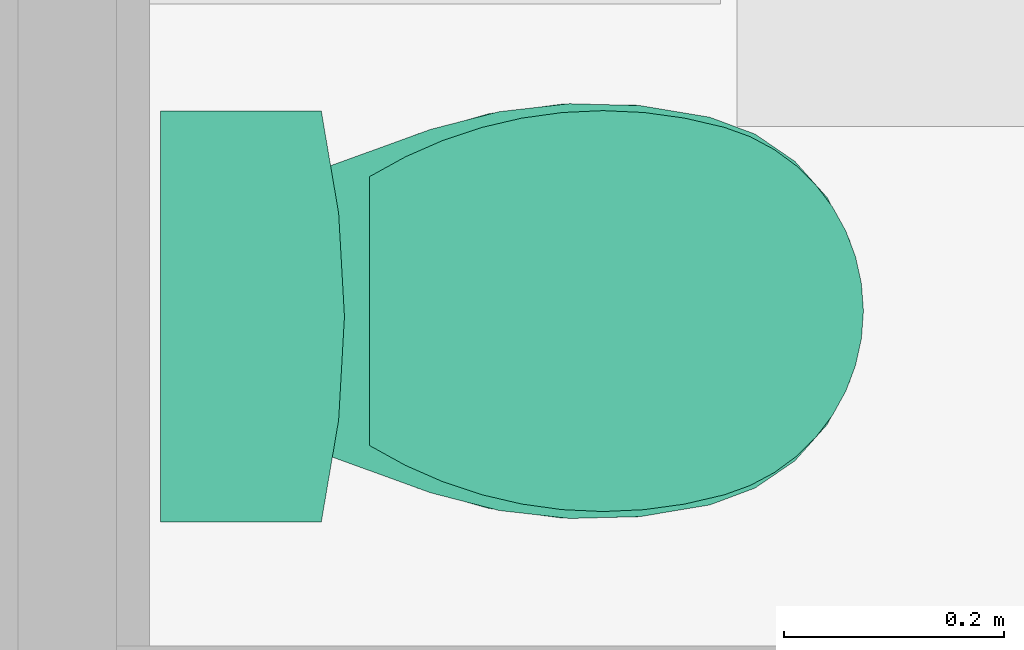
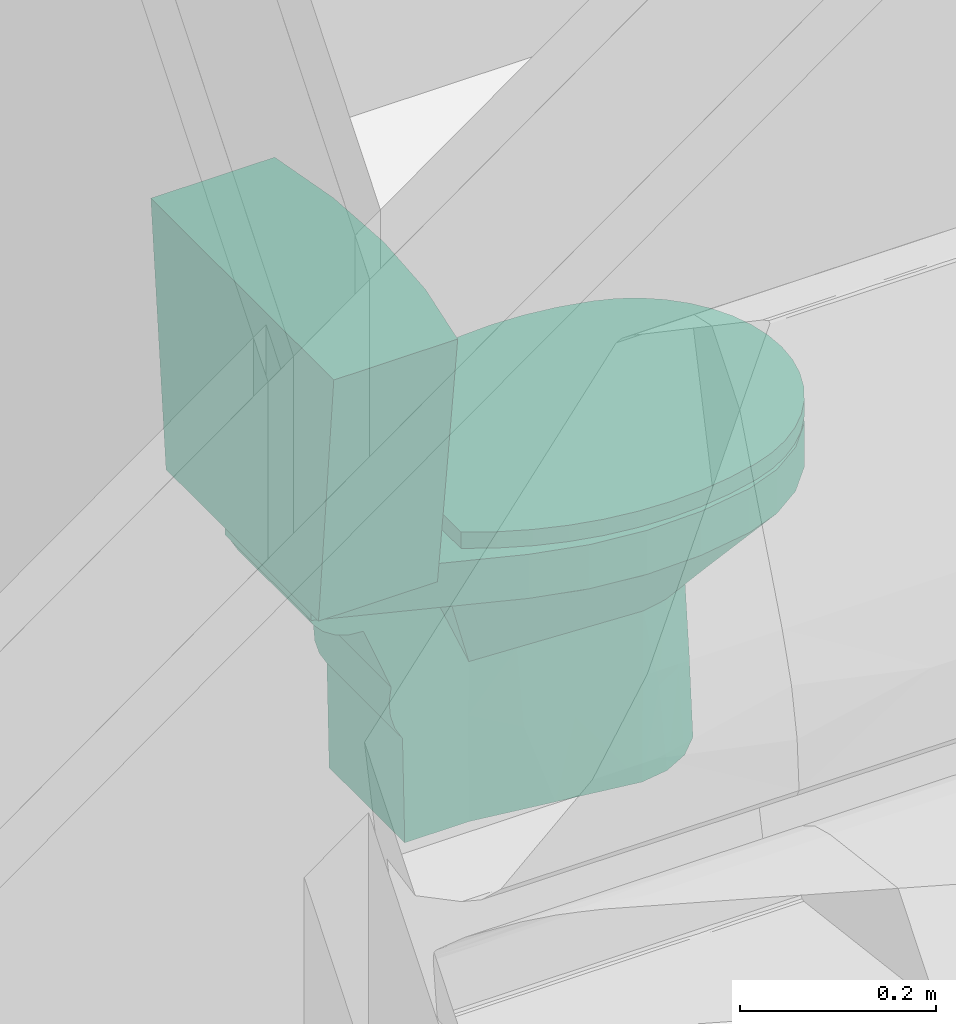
# One storey, part 67 of 155: 3 flow terminals.
"""IFC2X3 building model written with IfcOpenShell, lengths in metres."""

from ifc_helpers import new_model, entity, si_unit, converted_unit, derived_unit, direction, frame, frame_2d, origin, place, context, subcontext, project, spatial, polyline, circle_curve, parameter, trimmed, segment, composite_curve, outline, extrude, faceted_brep, source, transform, mapped, material, element, save


model = new_model("IFC2X3")

# Units and contexts
model_context = context("Model", 3, precision=1e-05, world=origin(), true_north=direction((6.12303176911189e-17, 1.0)))
body_context = subcontext(model_context, "Body", "Model", "MODEL_VIEW")
ifc_project = project(units=[si_unit("LENGTHUNIT", "METRE"), si_unit("AREAUNIT", "SQUARE_METRE"), si_unit("VOLUMEUNIT", "CUBIC_METRE"), converted_unit("PLANEANGLEUNIT", "DEGREE", entity("IfcRatioMeasure", 0.0174532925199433), si_unit("PLANEANGLEUNIT", "RADIAN"), dimensions=[0, 0, 0, 0, 0, 0, 0]), si_unit("MASSUNIT", "GRAM", prefix="KILO"), derived_unit("MASSDENSITYUNIT", [(si_unit("MASSUNIT", "GRAM", prefix="KILO"), 1), (si_unit("LENGTHUNIT", "METRE"), -3)]), si_unit("TIMEUNIT", "SECOND"), si_unit("FREQUENCYUNIT", "HERTZ"), si_unit("THERMODYNAMICTEMPERATUREUNIT", "DEGREE_CELSIUS"), derived_unit("THERMALTRANSMITTANCEUNIT", [(si_unit("MASSUNIT", "GRAM", prefix="KILO"), 1), (si_unit("THERMODYNAMICTEMPERATUREUNIT", "KELVIN"), -1), (si_unit("TIMEUNIT", "SECOND"), -3)]), derived_unit("VOLUMETRICFLOWRATEUNIT", [(si_unit("LENGTHUNIT", "METRE"), 3), (si_unit("TIMEUNIT", "SECOND"), -1)]), si_unit("ELECTRICCURRENTUNIT", "AMPERE"), si_unit("ELECTRICVOLTAGEUNIT", "VOLT"), si_unit("POWERUNIT", "WATT"), si_unit("FORCEUNIT", "NEWTON", prefix="KILO"), si_unit("ILLUMINANCEUNIT", "LUX"), si_unit("LUMINOUSFLUXUNIT", "LUMEN"), si_unit("LUMINOUSINTENSITYUNIT", "CANDELA"), derived_unit("USERDEFINED", [(si_unit("MASSUNIT", "GRAM", prefix="KILO"), -1), (si_unit("LENGTHUNIT", "METRE"), -2), (si_unit("TIMEUNIT", "SECOND"), 3), (si_unit("LUMINOUSFLUXUNIT", "LUMEN"), 1)]), derived_unit("LINEARVELOCITYUNIT", [(si_unit("LENGTHUNIT", "METRE"), 1), (si_unit("TIMEUNIT", "SECOND"), -1)]), si_unit("PRESSUREUNIT", "PASCAL"), derived_unit("USERDEFINED", [(si_unit("LENGTHUNIT", "METRE"), -2), (si_unit("MASSUNIT", "GRAM", prefix="KILO"), 1), (si_unit("TIMEUNIT", "SECOND"), -2)])], contexts=[model_context])

# Site, building, storey, space
site_placement = place(None, frame((26.9889013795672, -17.5624287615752, 0.0)))
site = spatial("IfcSite", under=ifc_project, at=site_placement, Name="Default", CompositionType="ELEMENT")
building_placement = place(site_placement, origin())
building = spatial("IfcBuilding", under=site, at=building_placement, Name="C. C. L. Monsenhor Antônio Sampaio", CompositionType="ELEMENT")
storey_placement = place(building_placement, frame((0.0, 0.0, 1.19999999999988)))
storey = spatial("IfcBuildingStorey", under=building, at=storey_placement, Name="Nível 1.2", CompositionType="ELEMENT", Elevation=1.19999999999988)
space_placement = place(storey_placement, origin())
space = spatial("IfcSpace", under=storey, at=space_placement, Name="98", CompositionType="ELEMENT", InteriorOrExteriorSpace="INTERNAL")

# Flow terminals
ifc_material_1 = material(Name="Deca CR37 Creme Cerâmica")
shared_shape_1 = source(origin(), body_context, "Body", "Brep", [
    faceted_brep([(0.268160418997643, 0.380000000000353, 0.118207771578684), (0.268160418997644, 0.380000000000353, 0.1938965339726), (0.268160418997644, 0.313331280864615, 0.193201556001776), (0.268160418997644, 0.24666007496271, 0.192953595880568), (0.268160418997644, 0.180000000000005, 0.193896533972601), (0.268160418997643, 0.0549999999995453, 0.140707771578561), (0.268160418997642, 0.0549999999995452, 0.00159527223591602), (0.268160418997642, 0.0698988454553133, 0.0100176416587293), (0.268160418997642, 0.0823512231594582, 0.0217586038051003), (0.268160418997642, 0.0916344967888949, 0.0361368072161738), (0.268160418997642, 0.0972099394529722, 0.0523178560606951), (0.268160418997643, 0.0987539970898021, 0.0693627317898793), (0.268160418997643, 0.179999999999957, 0.102188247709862), (0.268160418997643, 0.19786747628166, 0.0997541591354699), (0.268160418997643, 0.215838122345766, 0.101246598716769), (0.268160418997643, 0.233059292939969, 0.10659475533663), (0.268160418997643, 0.248713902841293, 0.11554487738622), (0.113406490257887, 0.0916344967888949, 0.0361368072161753), (0.113406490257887, 0.0823512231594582, 0.0217586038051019), (0.113406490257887, 0.0698988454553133, 0.0100176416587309), (0.113406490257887, 0.0549999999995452, 0.00159527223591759), (0.113406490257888, 0.0549999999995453, 0.140707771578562), (0.113406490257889, 0.180000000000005, 0.193896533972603), (0.113406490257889, 0.246666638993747, 0.194094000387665), (0.113406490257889, 0.313333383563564, 0.194043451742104), (0.113406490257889, 0.380000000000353, 0.193896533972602), (0.113406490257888, 0.380000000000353, 0.118207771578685), (0.113406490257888, 0.248713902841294, 0.115544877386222), (0.113406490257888, 0.233059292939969, 0.106594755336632), (0.113406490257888, 0.215838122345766, 0.101246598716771), (0.113406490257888, 0.19786747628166, 0.0997541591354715), (0.113406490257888, 0.179999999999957, 0.102188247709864), (0.113406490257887, 0.0987539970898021, 0.0693627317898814), (0.113406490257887, 0.0972099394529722, 0.0523178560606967), (0.252339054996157, 0.380000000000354, 0.467840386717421), (0.275610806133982, 0.380000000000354, 0.444568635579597), (0.290552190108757, 0.380000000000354, 0.415244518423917), (0.295700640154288, 0.380000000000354, 0.382738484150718), (0.281970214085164, 0.380000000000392, 0.288317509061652), (0.105710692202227, 0.380000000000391, 0.24571892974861), (0.0979976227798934, 0.380000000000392, 0.297541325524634), (0.085317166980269, 0.380000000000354, 0.382738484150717), (0.0904656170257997, 0.380000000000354, 0.415244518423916), (0.105407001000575, 0.380000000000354, 0.444568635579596), (0.128678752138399, 0.380000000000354, 0.467840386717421), (0.158002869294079, 0.380000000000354, 0.482781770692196), (0.190508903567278, 0.380000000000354, 0.487930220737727), (0.206761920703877, 0.380000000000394, 0.485355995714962), (0.223014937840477, 0.380000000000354, 0.482781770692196), (0.27929222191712, 0.179999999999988, 0.393896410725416), (0.273106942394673, 0.179999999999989, 0.423407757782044), (0.257407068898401, 0.179999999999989, 0.449150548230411), (0.245704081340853, 0.179999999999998, 0.458654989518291), (0.234001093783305, 0.179999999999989, 0.468159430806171), (0.205585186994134, 0.179999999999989, 0.47824474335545), (0.175432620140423, 0.179999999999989, 0.47824474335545), (0.161224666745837, 0.179999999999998, 0.473202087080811), (0.147016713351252, 0.179999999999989, 0.468159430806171), (0.123610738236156, 0.179999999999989, 0.449150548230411), (0.107910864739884, 0.179999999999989, 0.423407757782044), (0.101725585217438, 0.179999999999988, 0.393896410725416), (0.104935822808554, 0.179999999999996, 0.339012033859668), (0.107574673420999, 0.179999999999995, 0.293896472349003), (0.271287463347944, 0.179999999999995, 0.249045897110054), (0.274335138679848, 0.179999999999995, 0.304195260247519), (0.098784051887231, 0.290142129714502, 0.330769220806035), (0.105110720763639, 0.283569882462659, 0.273844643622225), (0.0934222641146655, 0.281208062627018, 0.388250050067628), (0.0953872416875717, 0.257257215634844, 0.389586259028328), (0.274339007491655, 0.279255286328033, 0.255685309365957), (0.280137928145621, 0.282802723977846, 0.312510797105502), (0.287496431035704, 0.280000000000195, 0.388317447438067), (0.285630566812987, 0.25725723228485, 0.389586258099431), (0.0966193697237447, 0.275039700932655, 0.409632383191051), (0.121774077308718, 0.29110573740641, 0.45601571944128), (0.109893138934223, 0.271267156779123, 0.439731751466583), (0.233838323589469, 0.291843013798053, 0.474126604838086), (0.259243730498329, 0.291105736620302, 0.456015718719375), (0.271124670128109, 0.271267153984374, 0.4397317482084), (0.165732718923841, 0.276826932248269, 0.480372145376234), (0.284398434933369, 0.275039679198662, 0.40963238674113), (0.137585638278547, 0.278929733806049, 0.46796088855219), (0.212957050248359, 0.281586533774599, 0.481168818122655), (0.186508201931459, 0.26973608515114, 0.483217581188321)], [[[0, 1, 2, 3, 4, 5, 6, 7, 8, 9, 10, 11, 12, 13, 14, 15, 16]], [[17, 18, 19, 20, 21, 22, 23, 24, 25, 26, 27, 28, 29, 30, 31, 32, 33]], [[20, 6, 5, 21]], [[34, 35, 36, 37, 38, 1, 0, 26, 25, 39, 40, 41, 42, 43, 44, 45, 46, 47, 48]], [[26, 0, 16, 27]], [[15, 28, 27, 16]], [[29, 28, 15, 14]], [[13, 12, 31, 30]], [[14, 13, 30, 29]], [[31, 12, 11, 32]], [[33, 32, 11, 10]], [[17, 33, 10, 9]], [[9, 8, 18, 17]], [[19, 18, 8, 7]], [[20, 19, 7, 6]], [[21, 5, 4, 22]], [[49, 50, 51, 52, 53, 54, 55, 56, 57, 58, 59, 60, 61, 62, 22, 4, 63, 64]], [[62, 61, 65]], [[62, 65, 66]], [[22, 66, 23]], [[39, 66, 40]], [[65, 67, 41]], [[61, 60, 68, 67]], [[39, 25, 24]], [[66, 39, 24]], [[22, 62, 66]], [[66, 24, 23]], [[40, 66, 65]], [[40, 65, 41]], [[67, 65, 61]], [[69, 1, 38]], [[70, 38, 37]], [[3, 2, 69]], [[69, 2, 1]], [[70, 37, 71, 72, 49]], [[64, 70, 49]], [[69, 38, 70]], [[64, 69, 70]], [[69, 63, 3]], [[4, 3, 63]], [[69, 64, 63]], [[59, 73, 60]], [[73, 42, 41]], [[44, 43, 74]], [[58, 74, 75]], [[52, 76, 53]], [[43, 42, 75]], [[35, 77, 78]], [[56, 55, 79]], [[68, 60, 73, 41, 67]], [[80, 49, 72, 71, 37]], [[43, 75, 74]], [[81, 74, 58]], [[44, 81, 45]], [[44, 74, 81]], [[81, 79, 45]], [[73, 59, 75]], [[56, 79, 81]], [[75, 59, 58]], [[53, 76, 82]], [[76, 34, 48]], [[78, 80, 36]], [[83, 82, 47]], [[54, 53, 82]], [[77, 35, 34]], [[54, 82, 83]], [[80, 50, 49]], [[47, 82, 48]], [[76, 48, 82]], [[79, 83, 46]], [[79, 55, 83]], [[34, 76, 77]], [[77, 51, 78]], [[47, 46, 83]], [[45, 79, 46]], [[56, 81, 57]], [[83, 55, 54]], [[77, 76, 52]], [[51, 77, 52]], [[57, 81, 58]], [[35, 78, 36]], [[78, 51, 50]], [[42, 73, 75]], [[50, 80, 78]], [[36, 80, 37]]]),
    faceted_brep([(0.278810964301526, 0.0549999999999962, 0.00159527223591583), (0.102206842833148, 0.0549999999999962, 0.00159527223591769), (0.0249993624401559, 0.0549999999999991, 0.214136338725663), (0.00887872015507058, 0.055, 0.276529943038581), (0.001595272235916, 0.0550000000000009, 0.340559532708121), (0.00329068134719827, 0.0550000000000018, 0.404979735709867), (0.0139319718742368, 0.0550000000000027, 0.46853758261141), (0.0293015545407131, 0.0550000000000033, 0.50973851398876), (0.0541240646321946, 0.0550000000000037, 0.546037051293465), (0.0869439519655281, 0.0550000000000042, 0.575304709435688), (0.1258367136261, 0.0550000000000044, 0.595825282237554), (0.168521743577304, 0.0550000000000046, 0.606395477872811), (0.212496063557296, 0.0550000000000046, 0.606395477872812), (0.2551810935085, 0.0550000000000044, 0.595825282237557), (0.294073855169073, 0.0550000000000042, 0.575304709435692), (0.326893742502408, 0.0550000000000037, 0.546037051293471), (0.351716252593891, 0.0550000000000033, 0.509738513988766), (0.367085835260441, 0.0550000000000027, 0.468537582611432), (0.377727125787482, 0.0550000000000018, 0.404979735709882), (0.379422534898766, 0.0550000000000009, 0.340559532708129), (0.37213908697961, 0.055, 0.276529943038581), (0.356018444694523, 0.0549999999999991, 0.21413633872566), (0.326893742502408, 0.0, 0.546037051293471), (0.294073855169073, 0.0, 0.575304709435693), (0.2551810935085, 0.0, 0.595825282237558), (0.212496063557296, 0.0, 0.606395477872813), (0.168521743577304, 0.0, 0.606395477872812), (0.1258367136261, 0.0, 0.595825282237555), (0.0869439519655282, 0.0, 0.575304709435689), (0.0541240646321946, 0.0, 0.546037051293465), (0.0293015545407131, 0.0, 0.50973851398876), (0.0139319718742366, 0.0, 0.468537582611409), (0.00329068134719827, 0.0, 0.404979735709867), (0.001595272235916, 0.0, 0.340559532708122), (0.00887872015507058, 0.0, 0.276529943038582), (0.0249993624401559, 0.0, 0.214136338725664), (0.102206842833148, 0.0, 0.00159527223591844), (0.278810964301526, 0.0, 0.00159527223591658), (0.356018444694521, 0.0, 0.214136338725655), (0.37213908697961, 0.0, 0.276529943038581), (0.379422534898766, 0.0, 0.340559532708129), (0.377727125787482, 0.0, 0.404979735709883), (0.367085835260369, 0.0, 0.468537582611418), (0.351716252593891, 0.0, 0.509738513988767)], [[[0, 1, 2, 3, 4, 5, 6, 7, 8, 9, 10, 11, 12, 13, 14, 15, 16, 17, 18, 19, 20, 21]], [[22, 23, 24, 25, 26, 27, 28, 29, 30, 31, 32, 33, 34, 35, 36, 37, 38, 39, 40, 41, 42, 43]], [[35, 2, 1, 36]], [[36, 1, 0, 37]], [[37, 0, 21, 38]], [[20, 19, 40, 39]], [[38, 21, 20, 39]], [[18, 17, 42, 41]], [[19, 18, 41, 40]], [[42, 17, 16, 43]], [[43, 16, 15, 22]], [[24, 23, 14, 13]], [[14, 23, 22, 15]], [[25, 24, 13, 12]], [[12, 11, 26, 25]], [[9, 28, 27, 10]], [[10, 27, 26, 11]], [[30, 29, 8, 7]], [[28, 9, 8, 29]], [[31, 30, 7, 6]], [[5, 4, 33, 32]], [[31, 6, 5, 32]], [[3, 2, 35, 34]], [[4, 3, 34, 33]]]),
    faceted_brep([(0.00190963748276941, 0.0549999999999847, 0.334308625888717), (0.0106813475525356, 0.0549999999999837, 0.267316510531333), (0.0291285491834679, 0.0549999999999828, 0.202319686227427), (0.0568568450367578, 0.054999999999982, 0.140707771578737), (0.32416096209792, 0.054999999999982, 0.140707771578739), (0.351889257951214, 0.0549999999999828, 0.202319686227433), (0.370336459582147, 0.0549999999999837, 0.267316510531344), (0.379108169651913, 0.0549999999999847, 0.334308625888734), (0.378016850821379, 0.0549999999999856, 0.401863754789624), (0.36708583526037, 0.0549999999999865, 0.468537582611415), (0.351716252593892, 0.0549999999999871, 0.509738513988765), (0.326893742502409, 0.0549999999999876, 0.546037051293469), (0.294073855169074, 0.054999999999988, 0.575304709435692), (0.255181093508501, 0.0549999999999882, 0.595825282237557), (0.212496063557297, 0.0549999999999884, 0.606395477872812), (0.168521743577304, 0.0549999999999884, 0.606395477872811), (0.1258367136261, 0.0549999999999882, 0.595825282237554), (0.0869439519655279, 0.054999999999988, 0.575304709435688), (0.0541240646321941, 0.0549999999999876, 0.546037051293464), (0.0293015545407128, 0.0549999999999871, 0.509738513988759), (0.0139319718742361, 0.0549999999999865, 0.468537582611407), (0.00300095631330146, 0.0549999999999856, 0.401863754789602), (0.11342376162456, 0.179999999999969, 0.193896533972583), (0.11049921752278, 0.179999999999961, 0.24389650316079), (0.107574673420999, 0.179999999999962, 0.293896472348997), (0.104650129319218, 0.179999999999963, 0.343896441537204), (0.101725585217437, 0.179999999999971, 0.393896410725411), (0.107910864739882, 0.179999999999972, 0.42340775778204), (0.123610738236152, 0.179999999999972, 0.449150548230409), (0.1353137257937, 0.179999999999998, 0.45865498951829), (0.147016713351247, 0.179999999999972, 0.468159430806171), (0.175432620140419, 0.179999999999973, 0.478244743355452), (0.20558518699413, 0.179999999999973, 0.478244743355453), (0.234001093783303, 0.179999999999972, 0.468159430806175), (0.245704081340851, 0.179999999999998, 0.458654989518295), (0.2574070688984, 0.179999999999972, 0.449150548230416), (0.273106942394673, 0.179999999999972, 0.423407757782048), (0.27929222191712, 0.179999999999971, 0.393896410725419), (0.276529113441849, 0.179999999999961, 0.34389644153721), (0.273766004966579, 0.179999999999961, 0.293896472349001), (0.271002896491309, 0.17999999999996, 0.243896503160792), (0.268239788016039, 0.179999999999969, 0.193896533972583), (0.291656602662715, 0.127656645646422, 0.17162390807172), (0.307908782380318, 0.091328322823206, 0.15616583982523), (0.0733060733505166, 0.091349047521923, 0.156174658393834), (0.0897553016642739, 0.127698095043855, 0.171641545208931), (0.319208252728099, 0.109492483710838, 0.227274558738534), (0.301825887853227, 0.14804688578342, 0.324994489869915), (0.29696767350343, 0.148046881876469, 0.266380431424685), (0.326006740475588, 0.116093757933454, 0.297350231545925), (0.334403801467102, 0.10949248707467, 0.369343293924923), (0.292104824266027, 0.145256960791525, 0.219552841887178), (0.316055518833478, 0.127656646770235, 0.425152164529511), (0.335161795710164, 0.100453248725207, 0.441396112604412), (0.341570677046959, 0.0913283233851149, 0.446844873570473), (0.30510677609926, 0.145256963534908, 0.372928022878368), (0.0467077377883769, 0.10952356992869, 0.369338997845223), (0.0394616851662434, 0.0913490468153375, 0.446832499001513), (0.0458560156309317, 0.100453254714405, 0.441396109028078), (0.0649913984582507, 0.12769809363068, 0.425127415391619), (0.084350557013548, 0.148046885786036, 0.266380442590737), (0.0793721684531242, 0.148046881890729, 0.324994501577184), (0.0551688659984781, 0.116093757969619, 0.297350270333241), (0.0620458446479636, 0.10952357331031, 0.227275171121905), (0.0759980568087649, 0.145263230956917, 0.372914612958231), (0.089299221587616, 0.145263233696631, 0.219565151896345), (0.0730163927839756, 0.11280069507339, 0.482893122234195), (0.0711556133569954, 0.128485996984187, 0.447531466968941), (0.190508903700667, 0.120856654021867, 0.540189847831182), (0.224981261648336, 0.114814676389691, 0.541965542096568), (0.10885067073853, 0.113642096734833, 0.520707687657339), (0.130559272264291, 0.115343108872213, 0.531942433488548), (0.309862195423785, 0.12848599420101, 0.447531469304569), (0.15603654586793, 0.114814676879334, 0.541965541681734), (0.0912929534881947, 0.115800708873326, 0.502321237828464), (0.250458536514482, 0.115343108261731, 0.531942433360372), (0.289724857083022, 0.115800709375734, 0.50232123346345), (0.308001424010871, 0.112800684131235, 0.482893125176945), (0.272167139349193, 0.113642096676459, 0.520707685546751)], [[[0, 1, 2, 3, 4, 5, 6, 7, 8, 9, 10, 11, 12, 13, 14, 15, 16, 17, 18, 19, 20, 21]], [[22, 23, 24, 25, 26, 27, 28, 29, 30, 31, 32, 33, 34, 35, 36, 37, 38, 39, 40, 41]], [[22, 41, 42, 43, 4, 3, 44, 45]], [[42, 46, 43]], [[47, 48, 39]], [[7, 6, 49]], [[7, 50, 8]], [[43, 46, 5]], [[48, 46, 51]], [[49, 46, 48]], [[50, 52, 53, 54]], [[47, 39, 38]], [[46, 6, 5]], [[5, 4, 43]], [[38, 37, 55]], [[55, 47, 38]], [[46, 49, 6]], [[8, 50, 54]], [[54, 9, 8]], [[7, 49, 50]], [[39, 48, 40]], [[41, 51, 42]], [[51, 40, 48]], [[49, 48, 47]], [[40, 51, 41]], [[42, 51, 46]], [[47, 50, 49]], [[52, 50, 55]], [[47, 55, 50]], [[52, 55, 37]], [[56, 57, 58, 59]], [[60, 61, 24]], [[1, 0, 62]], [[1, 63, 2]], [[57, 56, 21]], [[61, 56, 64]], [[62, 56, 61]], [[44, 63, 45]], [[60, 24, 23]], [[56, 0, 21]], [[21, 20, 57]], [[23, 22, 65]], [[65, 60, 23]], [[56, 62, 0]], [[2, 63, 44]], [[44, 3, 2]], [[1, 62, 63]], [[24, 61, 25]], [[26, 64, 59]], [[64, 25, 61]], [[62, 61, 60]], [[25, 64, 26]], [[59, 64, 56]], [[60, 63, 62]], [[45, 63, 65]], [[60, 65, 63]], [[45, 65, 22]], [[66, 27, 67]], [[32, 68, 69]], [[70, 71, 29]], [[72, 53, 52, 37]], [[31, 73, 68]], [[28, 66, 74]], [[36, 72, 37]], [[31, 30, 73]], [[68, 32, 31]], [[26, 67, 27]], [[18, 66, 19]], [[19, 58, 57, 20]], [[74, 66, 18]], [[30, 71, 73]], [[14, 69, 68]], [[10, 9, 54, 53]], [[16, 15, 73]], [[70, 74, 17]], [[68, 73, 15]], [[71, 17, 16]], [[69, 75, 33]], [[76, 11, 77]], [[77, 36, 35]], [[74, 18, 17]], [[28, 70, 29]], [[35, 34, 78]], [[30, 29, 71]], [[71, 16, 73]], [[14, 13, 69]], [[69, 13, 75]], [[75, 13, 12]], [[78, 76, 35]], [[77, 35, 76]], [[11, 10, 77]], [[66, 67, 19]], [[27, 66, 28]], [[72, 77, 10]], [[58, 19, 67]], [[67, 26, 59, 58]], [[68, 15, 14]], [[36, 77, 72]], [[32, 69, 33]], [[53, 72, 10]], [[76, 12, 11]], [[34, 33, 75]], [[12, 76, 78]], [[28, 74, 70]], [[70, 17, 71]], [[78, 75, 12]], [[75, 78, 34]]]),
])
flow_terminal_1_placement = place(space_placement, frame((-9.03876006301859, -9.45755744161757, 0.380000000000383), z_axis=(1.0, 0.0, 0.0), x_axis=(0.0, -1.0, 0.0)))
element("IfcFlowTerminal", 1, at=flow_terminal_1_placement, inside=space, material=ifc_material_1, Name="Bacia para Caixa Acoplada:P.750_Creme CR37_Acionamento Simples 6lpf", ObjectType="P.750_Creme CR37_Acionamento Simples 6lpf", context=body_context, shape_type="MappedRepresentation", body=[
    mapped(shared_shape_1, transform((0.0, 0.0, 0.0), scale=1.0)),
])
ifc_material_2 = material(Name="Deca GE17 Branco Gelo Plástico")
shared_shape_2 = source(origin(), body_context, "Body", "SweptSolid", [
    extrude(outline(composite_curve([segment(trimmed(circle_curve(frame_2d((-0.195877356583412, 0.120829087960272), x_axis=(1.0, 0.0)), 0.406949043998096), [parameter(309.687623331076)], [parameter(356.917468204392)], True, "PARAMETER"), True, "CONTINUOUS"), segment(trimmed(circle_curve(frame_2d((0.0368457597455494, 0.108296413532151), x_axis=(-0.946706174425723, 0.322098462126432)), 0.173888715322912), [parameter(195.707346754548)], [parameter(344.292653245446)], True, "PARAMETER"), True, "CONTINUOUS"), segment(trimmed(circle_curve(frame_2d((0.2289232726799, -0.0237011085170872), x_axis=(-0.792505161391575, 0.609865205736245)), 0.406949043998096), [parameter(3.08253179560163)], [parameter(50.3123766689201)], True, "PARAMETER"), True, "CONTINUOUS"), segment(polyline([(-0.168018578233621, -0.113393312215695), (0.0640009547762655, -0.19233346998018)]), True, "CONTINUOUS")], self_intersect=False)), frame((0.0, -0.021064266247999, 0.151312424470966), z_axis=(0.0, 1.0, 0.0), x_axis=(-0.946706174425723, 0.0, 0.322098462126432)), (0.0, 0.0, 1.0), 0.0202797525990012),
])
flow_terminal_2_placement = place(space_placement, frame((-8.86992729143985, -9.64806634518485, 0.380000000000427), z_axis=(1.0, 0.0, 0.0), x_axis=(0.0, -1.0, 0.0)))
element("IfcFlowTerminal", 2, at=flow_terminal_2_placement, inside=space, material=ifc_material_2, Name="Assento para Bacia Sanitária:Assento para Bacia Sanitária", ObjectType="Assento para Bacia Sanitária", context=body_context, shape_type="MappedRepresentation", body=[
    mapped(shared_shape_2, transform((0.0, 0.0, 0.0), scale=1.0)),
])
shared_shape_3 = source(origin(), body_context, "Body", "Brep", [
    faceted_brep([(0.156041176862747, 0.0, 0.0), (-0.156041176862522, 0.0, 0.0), (-0.156041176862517, 0.0, 0.140537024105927), (-0.0783916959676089, 0.0, 0.151956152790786), (0.0, 0.0, 0.155774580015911), (0.0783916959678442, 0.0, 0.151956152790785), (0.156041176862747, 0.0, 0.140537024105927), (0.0942242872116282, -0.320000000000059, 0.16220526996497), (0.0, -0.320000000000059, 0.167498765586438), (-0.0942242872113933, -0.320000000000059, 0.162205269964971), (-0.187262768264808, -0.320000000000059, 0.146391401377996), (-0.187262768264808, -0.320000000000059, 0.0), (0.187262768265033, -0.320000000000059, 0.0), (0.187262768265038, -0.320000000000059, 0.146391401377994), (-0.171038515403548, -0.153712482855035, 0.143349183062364), (0.172265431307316, -0.166287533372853, 0.143579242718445), (0.107419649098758, -0.153032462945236, 0.154306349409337), (0.0432143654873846, -0.160000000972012, 0.160496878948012), (-0.0432143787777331, -0.160000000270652, 0.160496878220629), (-0.108279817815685, -0.16696754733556, 0.154716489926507)], [[[0, 1, 2, 3, 4, 5, 6]], [[7, 8, 9, 10, 11, 12, 13]], [[11, 10, 14, 2, 1]], [[6, 15, 13, 12, 0]], [[0, 12, 11, 1]], [[16, 13, 15, 6]], [[13, 16, 7]], [[17, 8, 7]], [[17, 7, 16]], [[5, 17, 16]], [[8, 17, 18]], [[5, 4, 17]], [[9, 18, 19]], [[2, 19, 3]], [[9, 19, 10]], [[8, 18, 9]], [[3, 19, 18]], [[5, 16, 6]], [[18, 17, 4]], [[19, 2, 14, 10]], [[3, 18, 4]]]),
])
flow_terminal_3_placement = place(space_placement, frame((-9.07055229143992, -9.65306634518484, 0.380000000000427), z_axis=(1.0, 0.0, 0.0), x_axis=(0.0, -1.0, 0.0)))
element("IfcFlowTerminal", 3, at=flow_terminal_3_placement, inside=space, material=ifc_material_1, Name="Caixa de Descarga Acoplada:Caixa de Descarga Acoplada", ObjectType="Caixa de Descarga Acoplada", context=body_context, shape_type="MappedRepresentation", body=[
    mapped(shared_shape_3, transform((0.0, 0.0, 0.0), scale=1.0)),
])

save(model, "model.ifc")
